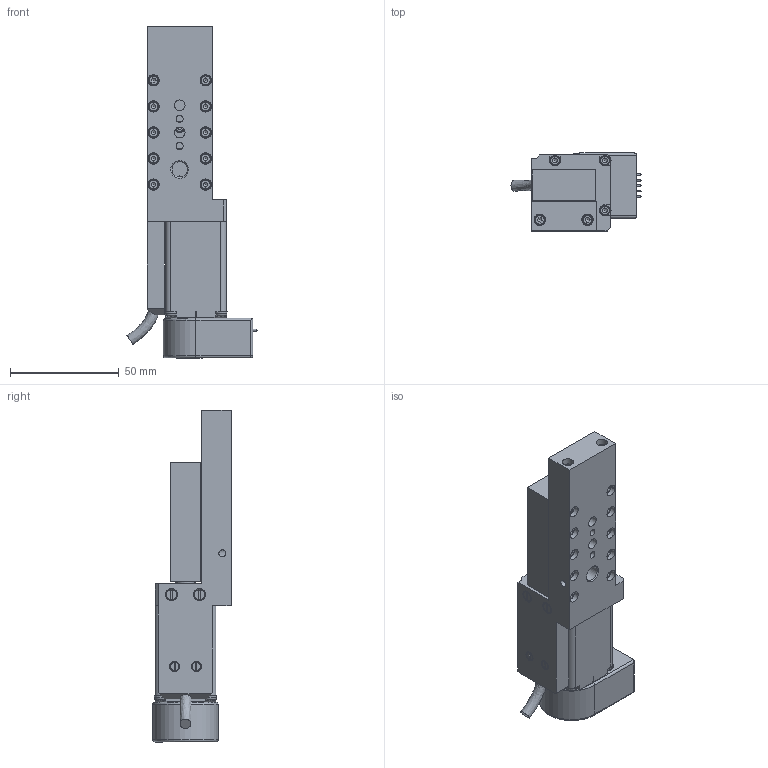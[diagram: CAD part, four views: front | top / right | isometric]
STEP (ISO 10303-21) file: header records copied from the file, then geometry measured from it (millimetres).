
FILE_DESCRIPTION(/* description */ (''),/* implementation_level */ '2;1');
FILE_NAME(/* name */ 'U:\KONSTRUKTORIAI\DOKUMENTACIJA\8\8MT173\8MT173-30\STEP\8MT173-30-MEn1 SB.stp',/* time_stamp */ '2020-12-14T12:43:02+02:00',/* author */ ('dsgn36'),/* organization */ (''),/* preprocessor_version */ 'ST-DEVELOPER v15.2',/* originating_system */ 'Autodesk Inventor 2014',/* authorisation */ '');
FILE_SCHEMA (('CONFIG_CONTROL_DESIGN'));
Length unit declared in the file: millimetre
Products named in the file (2): Part15; 8MT173-30-MEn1 SB
Bounding box: 59.84 x 36 x 152.8 mm (x, y, z)
Volume: 123700.6 mm3; surface area: 32880.3 mm2
Topology: 1 solids, 1 shells, 898 faces, 2384 edges, 1537 vertices
Faces by surface type: plane 525, cylinder 146, cone 102, bspline 46, torus 44, sphere 35
Full cylindrical faces by diameter (mm): 0.8 x5, 2.5 x3, 3.2 x3, 3.242 x3, 3.5 x1, 4.5 x18, 4.917 x2, 5 x9, 5.2 x12, 7.1 x1, 8.3 x1, 9 x1
Entity records: 28276 total; most frequent: CARTESIAN_POINT 7834, ORIENTED_EDGE 4410, DIRECTION 3889, EDGE_CURVE 2205, VERTEX_POINT 1484, AXIS2_PLACEMENT_3D 1402, EDGE_LOOP 1095, LINE 1085
